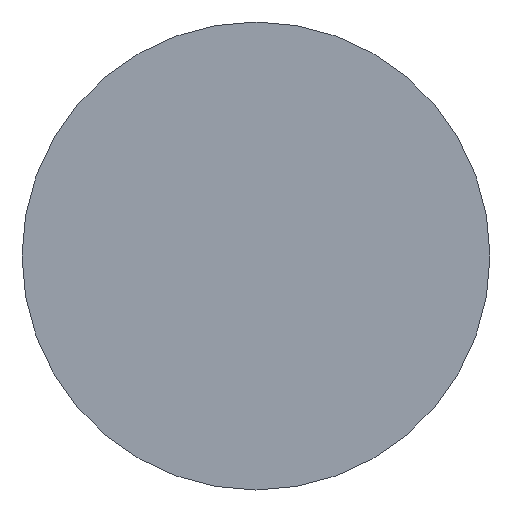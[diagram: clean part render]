
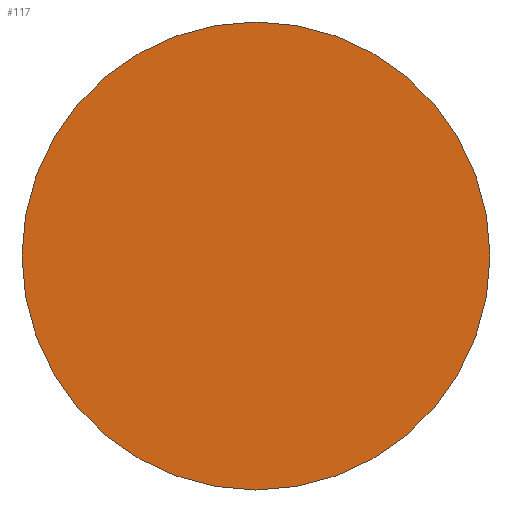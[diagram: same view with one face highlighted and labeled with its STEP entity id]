
A CAD part, left-side view. The second image highlights one B-rep face of the part: STEP entity #117.
In plain terms, the highlighted planar face has unit normal (-1, 0, 0).
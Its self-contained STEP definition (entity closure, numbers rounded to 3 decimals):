
#26 = DIRECTION ( 'NONE',  ( 0., 0., 1. ) ) ;
#27 = DIRECTION ( 'NONE',  ( -1., 0., 0. ) ) ;
#30 = CARTESIAN_POINT ( 'NONE',  ( -174.5, 0., 0. ) ) ;
#37 = DIRECTION ( 'NONE',  ( 0., 0., 1. ) ) ;
#38 = DIRECTION ( 'NONE',  ( -1., 0., 0. ) ) ;
#40 = CARTESIAN_POINT ( 'NONE',  ( -174.5, 0., 0. ) ) ;
#41 = DIRECTION ( 'NONE',  ( 0., 0., 1. ) ) ;
#42 = DIRECTION ( 'NONE',  ( -1., 0., 0. ) ) ;
#52 = CARTESIAN_POINT ( 'NONE',  ( -174.5, 0., 0. ) ) ;
#55 = PLANE ( 'NONE',  #129 ) ;
#62 = VERTEX_POINT ( 'NONE', #65 ) ;
#63 = VERTEX_POINT ( 'NONE', #66 ) ;
#65 = CARTESIAN_POINT ( 'NONE',  ( -174.5, 0., -5.5 ) ) ;
#66 = CARTESIAN_POINT ( 'NONE',  ( -174.5, 0., 5.5 ) ) ;
#70 = ORIENTED_EDGE ( 'NONE', *, *, #122, .T. ) ;
#75 = EDGE_LOOP ( 'NONE', ( #81, #70 ) ) ;
#81 = ORIENTED_EDGE ( 'NONE', *, *, #138, .T. ) ;
#91 = FACE_OUTER_BOUND ( 'NONE', #75, .T. ) ;
#97 = CIRCLE ( 'NONE', #133, 5.5 ) ;
#101 = CIRCLE ( 'NONE', #123, 5.5 ) ;
#117 = ADVANCED_FACE ( 'NONE', ( #91 ), #55, .T. ) ;
#122 = EDGE_CURVE ( 'NONE', #62, #63, #97, .T. ) ;
#123 = AXIS2_PLACEMENT_3D ( 'NONE', #30, #27, #26 ) ;
#129 = AXIS2_PLACEMENT_3D ( 'NONE', #52, #42, #41 ) ;
#133 = AXIS2_PLACEMENT_3D ( 'NONE', #40, #38, #37 ) ;
#138 = EDGE_CURVE ( 'NONE', #63, #62, #101, .T. ) ;
